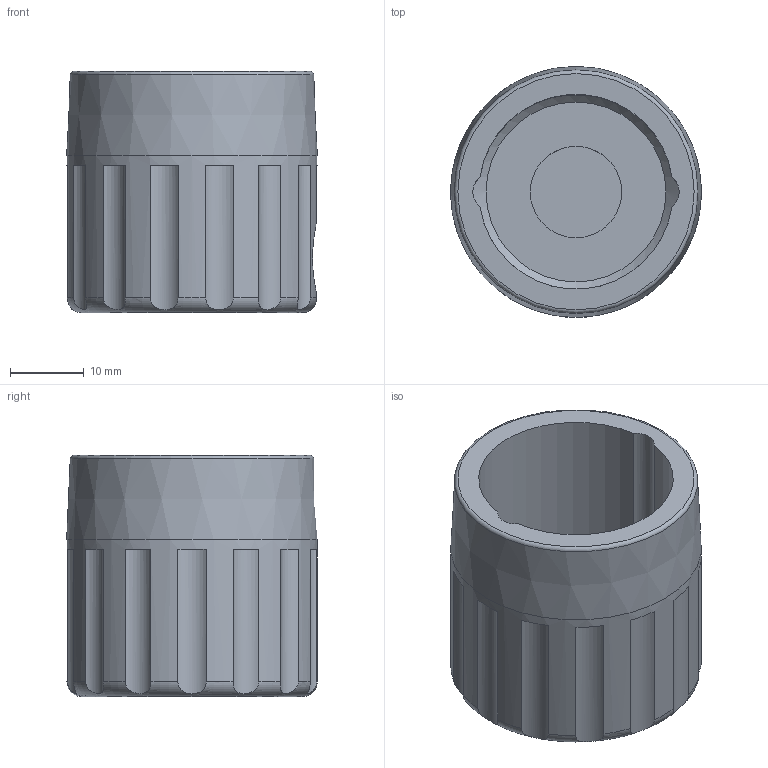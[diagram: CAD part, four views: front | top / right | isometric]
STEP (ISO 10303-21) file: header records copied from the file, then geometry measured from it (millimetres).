
FILE_DESCRIPTION(/* description */ ('Knob'),/* implementation_level */ '2;1');
FILE_NAME(/* name */ 'Z:\Werkstatt Server\Projekte\Atlas\Entwicklung u. Konstruktion\Konstruktion\CAD Daten\ITkPixToolV2.0\CAD_Drawings\Individual Parts\Baremodule Jig\ITPTv2.01.00.40.stp',/* time_stamp */ '2022-11-28T08:04:04+01:00',/* author */ ('Tim Kanngießer'),/* organization */ (''),/* preprocessor_version */ 'ST-DEVELOPER v19',/* originating_system */ 'Autodesk Inventor 2023',/* authorisation */ '');
FILE_SCHEMA (('AUTOMOTIVE_DESIGN { 1 0 10303 214 3 1 1 }'));
Length unit declared in the file: millimetre
Products named in the file (1): ITPTv2.01.00.40
Bounding box: 34 x 34 x 32.7 mm (x, y, z)
Volume: 15183.3 mm3; surface area: 7456.8 mm2
Topology: 1 solids, 1 shells, 45 faces, 126 edges, 84 vertices
Faces by surface type: cylinder 22, plane 18, cone 3, torus 2
Full cylindrical faces by diameter (mm): 4.4 x1, 12.4 x1, 34 x1
Entity records: 1899 total; most frequent: CARTESIAN_POINT 674, DIRECTION 256, ORIENTED_EDGE 252, EDGE_CURVE 126, AXIS2_PLACEMENT_3D 108, VERTEX_POINT 84, CIRCLE 62, EDGE_LOOP 48
